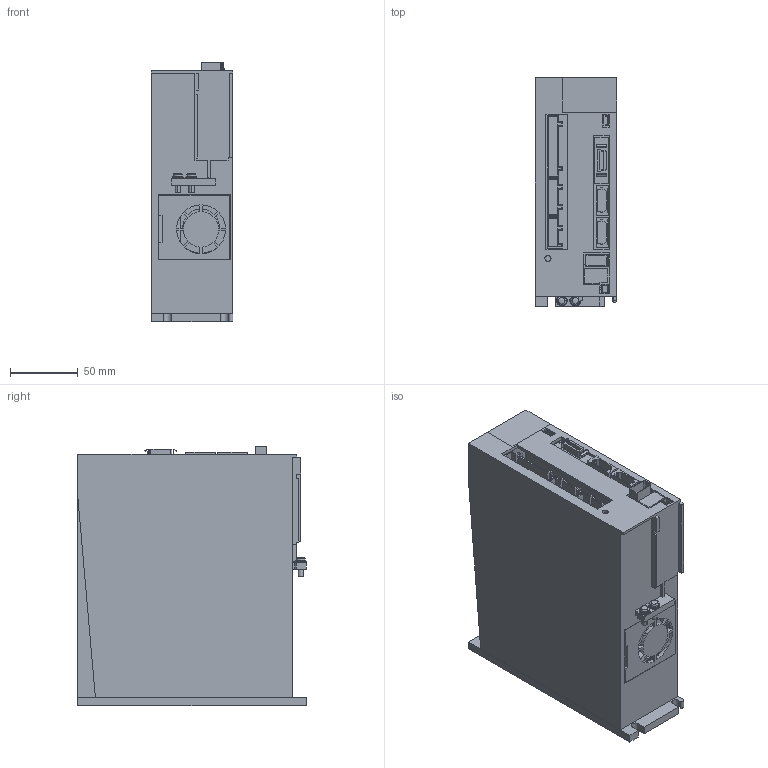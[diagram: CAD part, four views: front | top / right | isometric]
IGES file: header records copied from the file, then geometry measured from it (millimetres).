
Start section: SolidWorks IGES file using analytic representation for surfaces
Global section: file name: C:\work\mr-j3-70b_a.igs; native system: SolidWorks 2006 by SolidWorks Corporation; preprocessor: SolidWorks 2006 by SolidWorks Corporation; author: user; date: 091211.112104; units: millimetre
Bounding box: 60 x 168 x 191 mm (x, y, z)
Volume: 296619.6 mm3; surface area: 218254.1 mm2
Topology: 18 solids, 18 shells, 445 faces, 1172 edges, 779 vertices
Faces by surface type: plane 367, revolution 68, bspline 10
